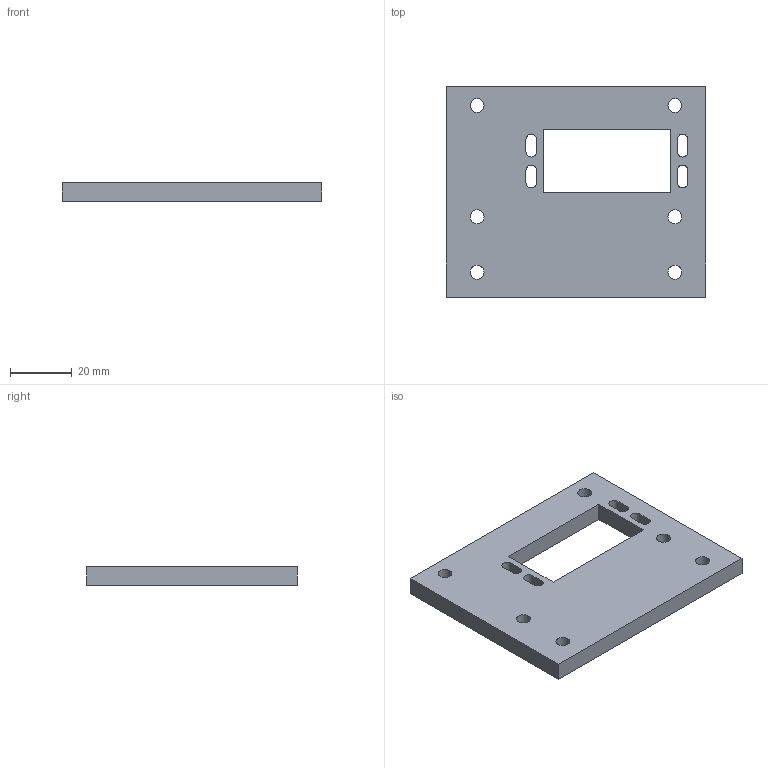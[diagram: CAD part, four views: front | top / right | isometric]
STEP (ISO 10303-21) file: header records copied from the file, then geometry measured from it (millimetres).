
FILE_DESCRIPTION(('Open CASCADE Model'),'2;1');
FILE_NAME('Open CASCADE Shape Model','2026-10-26T17:58:52',('Author'),( 'Open CASCADE'),'Open CASCADE STEP processor 7.9','Open CASCADE 7.9' ,'Unknown');
FILE_SCHEMA(('AUTOMOTIVE_DESIGN { 1 0 10303 214 1 1 1 1 }'));
Length unit declared in the file: millimetre
Products named in the file (1): Open CASCADE STEP translator 7.9 19
Bounding box: 84 x 68 x 6 mm (x, y, z)
Volume: 28124.8 mm3; surface area: 12895.4 mm2
Topology: 1 solids, 1 shells, 32 faces, 90 edges, 60 vertices
Faces by surface type: plane 18, cylinder 14
Full cylindrical faces by diameter (mm): 4.5 x6
Entity records: 2290 total; most frequent: CARTESIAN_POINT 483, DIRECTION 324, LINE 190, VECTOR 190, ORIENTED_EDGE 180, PCURVE 180, DEFINITIONAL_REPRESENTATION 180, EDGE_CURVE 90
